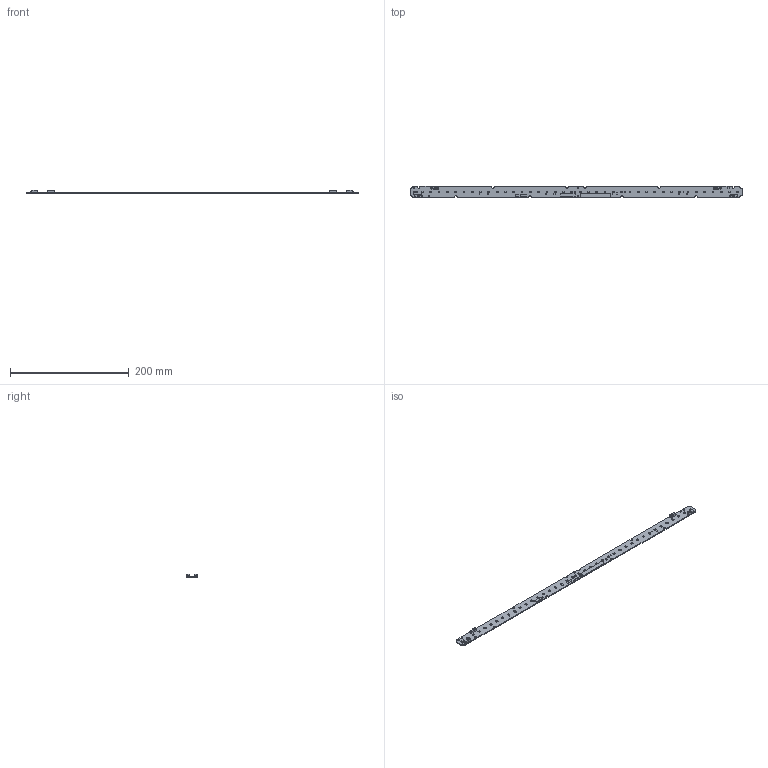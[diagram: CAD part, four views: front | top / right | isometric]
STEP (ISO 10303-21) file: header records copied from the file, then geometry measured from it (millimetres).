
FILE_DESCRIPTION((''),'2;1');
FILE_NAME('QC40SG220_06212021_10-08-30_ASM','2021-06-21T',('SYSTEM'),(''),'PRO/ENGINEER BY PARAMETRIC TECHNOLOGY CORPORATION, 2009360','PRO/ENGINEER BY PARAMETRIC TECHNOLOGY CORPORATION, 2009360','');
FILE_SCHEMA(('AUTOMOTIVE_DESIGN_CC2 { 1 2 10303 214 -1 1 5 2 }'));
Length unit declared in the file: inch
Products named in the file (13): QC40SG220_06212021_10-08-30; 3030_S_LES; RESC1608X84N; R0603; TC_R1MM; TC_R0_5MM; ARKALUMEN_LOGO_25MM; LABEL_BRACKET; UL; ROHS; FIDUCIAL_R0_5MM; WAGO-2060-1; QC40SG220_06212021_10-08-30_ASM
Assembly tree (68 placements, depth 2):
  QC40SG220_06212021_10-08-30_ASM
    QC40SG220_06212021_10-08-30
    3030_S_LES  x40
    RESC1608X84N  x6
    R0603  x4
    TC_R1MM
    TC_R0_5MM  x3
    ARKALUMEN_LOGO_25MM
    LABEL_BRACKET
    UL
    ROHS
    FIDUCIAL_R0_5MM  x5
    WAGO-2060-1  x4
Bounding box: 559.2 x 20 x 6.34 mm (x, y, z)
Volume: 19023.7 mm3; surface area: 27857.4 mm2
Topology: 68 solids, 68 shells, 1458 faces, 4902 edges, 4036 vertices
Faces by surface type: plane 1334, cylinder 116, sphere 8
Entity records: 15227 total; most frequent: CARTESIAN_POINT 2308, ORIENTED_EDGE 2042, DIRECTION 1945, EDGE_CURVE 1021, VECTOR 931, LINE 931, PRESENTATION_STYLE_ASSIGNMENT 760, STYLED_ITEM 760
